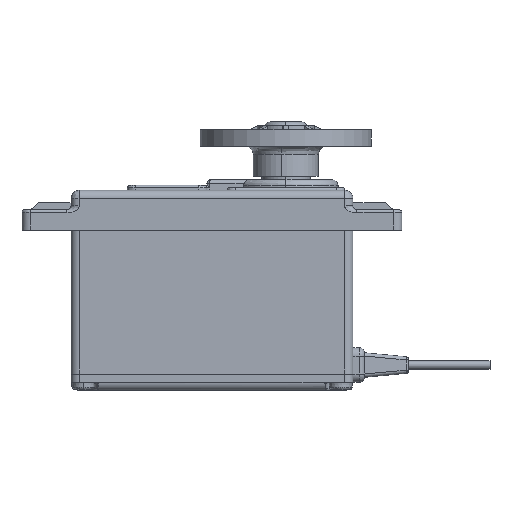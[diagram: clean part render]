
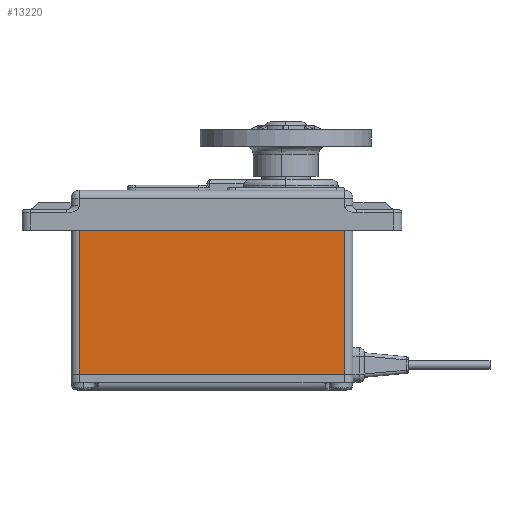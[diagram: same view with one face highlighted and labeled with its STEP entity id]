
A CAD part, left-side view. The second image highlights one B-rep face of the part: STEP entity #13220.
In plain terms, the highlighted planar face has unit normal (-1, 0, 0.003).
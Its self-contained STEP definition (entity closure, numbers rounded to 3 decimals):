
#980 = LINE ( 'NONE', #11019, #4530 ) ;
#1111 = EDGE_CURVE ( 'NONE', #11205, #12399, #16169, .T. ) ;
#1157 = DIRECTION ( 'NONE',  ( 0., -1., 0. ) ) ;
#1585 = CARTESIAN_POINT ( 'NONE',  ( -7.95, 25.3, -6.2 ) ) ;
#2360 = DIRECTION ( 'NONE',  ( 0.003, 0., 1. ) ) ;
#3005 = ORIENTED_EDGE ( 'NONE', *, *, #12204, .F. ) ;
#3346 = VERTEX_POINT ( 'NONE', #9055 ) ;
#3369 = VERTEX_POINT ( 'NONE', #14137 ) ;
#3612 = CARTESIAN_POINT ( 'NONE',  ( -8.065, 25.3, -46.741 ) ) ;
#3666 = EDGE_CURVE ( 'NONE', #3369, #3346, #980, .T. ) ;
#4104 = LINE ( 'NONE', #4495, #7726 ) ;
#4495 = CARTESIAN_POINT ( 'NONE',  ( -7.885, -7.2, 16.746 ) ) ;
#4530 = VECTOR ( 'NONE', #1157, 1000. ) ;
#4696 = DIRECTION ( 'NONE',  ( 0., -1., 0. ) ) ;
#5952 = CARTESIAN_POINT ( 'NONE',  ( -7.95, 31.35, -6.2 ) ) ;
#7485 = AXIS2_PLACEMENT_3D ( 'NONE', #16415, #8796, #7537 ) ;
#7537 = DIRECTION ( 'NONE',  ( 0.003, 0., 1. ) ) ;
#7638 = ORIENTED_EDGE ( 'NONE', *, *, #12309, .F. ) ;
#7726 = VECTOR ( 'NONE', #15738, 1000. ) ;
#8304 = ORIENTED_EDGE ( 'NONE', *, *, #1111, .F. ) ;
#8796 = DIRECTION ( 'NONE',  ( -1., 0., 0.003 ) ) ;
#9055 = CARTESIAN_POINT ( 'NONE',  ( -8., -7.2, -23.8 ) ) ;
#9961 = LINE ( 'NONE', #3612, #10953 ) ;
#10953 = VECTOR ( 'NONE', #2360, 1000. ) ;
#11019 = CARTESIAN_POINT ( 'NONE',  ( -8., -8.2, -23.8 ) ) ;
#11205 = VERTEX_POINT ( 'NONE', #1585 ) ;
#11327 = PLANE ( 'NONE',  #7485 ) ;
#11330 = ORIENTED_EDGE ( 'NONE', *, *, #3666, .T. ) ;
#12106 = VECTOR ( 'NONE', #4696, 1000. ) ;
#12204 = EDGE_CURVE ( 'NONE', #3369, #11205, #9961, .T. ) ;
#12282 = EDGE_LOOP ( 'NONE', ( #3005, #11330, #7638, #8304 ) ) ;
#12309 = EDGE_CURVE ( 'NONE', #12399, #3346, #4104, .T. ) ;
#12399 = VERTEX_POINT ( 'NONE', #13320 ) ;
#12570 = FACE_OUTER_BOUND ( 'NONE', #12282, .T. ) ;
#13220 = ADVANCED_FACE ( 'NONE', ( #12570 ), #11327, .T. ) ;
#13320 = CARTESIAN_POINT ( 'NONE',  ( -7.95, -7.2, -6.2 ) ) ;
#14137 = CARTESIAN_POINT ( 'NONE',  ( -8., 25.3, -23.8 ) ) ;
#15738 = DIRECTION ( 'NONE',  ( -0.003, 0., -1. ) ) ;
#16169 = LINE ( 'NONE', #5952, #12106 ) ;
#16415 = CARTESIAN_POINT ( 'NONE',  ( -7.95, -8.2, -6.2 ) ) ;
